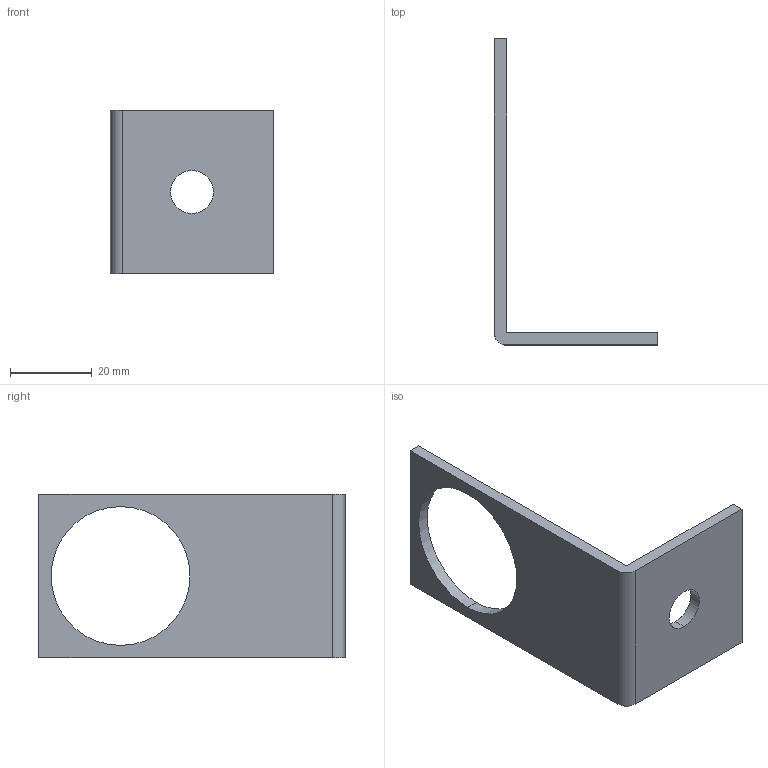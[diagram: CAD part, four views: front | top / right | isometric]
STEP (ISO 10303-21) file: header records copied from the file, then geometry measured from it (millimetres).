
FILE_DESCRIPTION (( 'STEP AP203' ), '1' );
FILE_NAME ('SILVENT_3382_STEP.STEP', '2019-11-21T05:22:46', ( '' ), ( '' ), 'SwSTEP 2.0', 'SolidWorks 2016', '' );
FILE_SCHEMA (( 'CONFIG_CONTROL_DESIGN' ));
Length unit declared in the file: millimetre
Products named in the file (2): SILVENT_3382_STEP
Bounding box: 40 x 75 x 40 mm (x, y, z)
Volume: 10379.2 mm3; surface area: 8247 mm2
Topology: 1 solids, 1 shells, 13 faces, 33 edges, 22 vertices
Faces by surface type: plane 8, cylinder 5
Entity records: 560 total; most frequent: DIRECTION 73, CARTESIAN_POINT 70, ORIENTED_EDGE 66, EDGE_CURVE 33, AXIS2_PLACEMENT_3D 25, LINE 23, VECTOR 23, VERTEX_POINT 22
